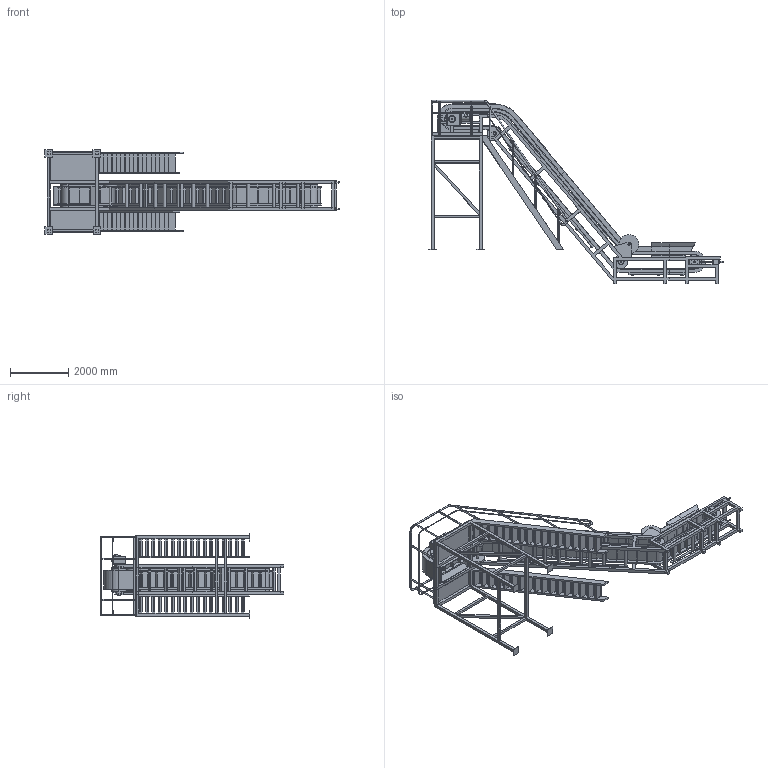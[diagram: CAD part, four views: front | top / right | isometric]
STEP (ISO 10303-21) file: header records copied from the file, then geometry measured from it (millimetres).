
FILE_DESCRIPTION(/* description */ (''),/* implementation_level */ '2;1');
FILE_NAME(/* name */ 'beltconveyor_a018_w800_h6200.stp',/* time_stamp */ '2024-12-15T16:50:41+08:00',/* author */ (''),/* organization */ (''),/* preprocessor_version */ 'ST-DEVELOPER v16.7',/* originating_system */ 'SIEMENS PLM Software NX 12.0',/* authorisation */ '');
FILE_SCHEMA (('AUTOMOTIVE_DESIGN { 1 0 10303 214 3 1 1 1 }'));
Products named in the file (4): 复件总进料皮带机-头1; 复件 总进料皮带机-尾1; 复件 总进料皮带机-中间1; beltconveyor_a018_w800_h6200
Assembly tree (3 placements, depth 2):
  beltconveyor_a018_w800_h6200
    复件 总进料皮带机-中间1
    复件 总进料皮带机-尾1
    复件总进料皮带机-头1
Bounding box: 10130 x 6305.38 x 2920 mm (x, y, z)
Volume: 3140922745.8 mm3; surface area: 194812921.1 mm2
Topology: 72 solids, 72 shells, 2546 faces, 7099 edges, 4632 vertices
Faces by surface type: plane 1866, extrusion 369, cylinder 283, torus 26, cone 2
Full cylindrical faces by diameter (mm): 676.219 x1
Entity records: 96770 total; most frequent: CARTESIAN_POINT 22328, ORIENTED_EDGE 14190, DIRECTION 11278, EDGE_CURVE 7095, VECTOR 5548, LINE 5179, VERTEX_POINT 4632, AXIS2_PLACEMENT_3D 2865
